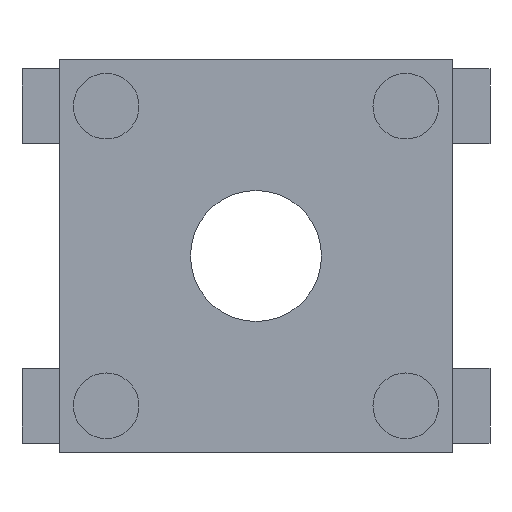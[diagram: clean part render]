
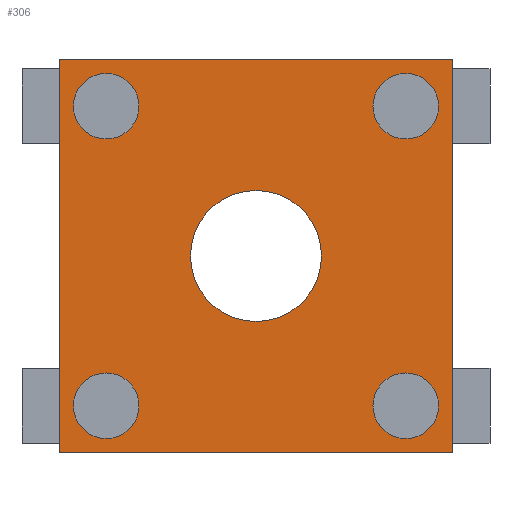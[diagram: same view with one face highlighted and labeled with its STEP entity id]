
A CAD part, front view. The second image highlights one B-rep face of the part: STEP entity #306.
In plain terms, the highlighted planar face has unit normal (0, -1, 0).
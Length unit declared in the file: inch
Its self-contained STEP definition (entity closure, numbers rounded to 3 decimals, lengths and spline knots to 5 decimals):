
#9 = ORIENTED_EDGE ( 'NONE', *, *, #946, .F. ) ;
#17 = AXIS2_PLACEMENT_3D ( 'NONE', #689, #920, #23 ) ;
#22 = CARTESIAN_POINT ( 'NONE',  ( -1259.84252, -196.85039, 984.25197 ) ) ;
#23 = DIRECTION ( 'NONE',  ( 0., 0., -1. ) ) ;
#29 = DIRECTION ( 'NONE',  ( 0., 0., -1. ) ) ;
#31 = AXIS2_PLACEMENT_3D ( 'NONE', #768, #318, #323 ) ;
#33 = AXIS2_PLACEMENT_3D ( 'NONE', #212, #828, #888 ) ;
#37 = CARTESIAN_POINT ( 'NONE',  ( -1653.54331, -196.85039, -1653.54331 ) ) ;
#40 = EDGE_LOOP ( 'NONE', ( #923, #213 ) ) ;
#46 = DIRECTION ( 'NONE',  ( 0., 1., 0. ) ) ;
#49 = CARTESIAN_POINT ( 'NONE',  ( 1653.54331, -196.85039, -1653.54331 ) ) ;
#55 = ORIENTED_EDGE ( 'NONE', *, *, #563, .T. ) ;
#58 = CARTESIAN_POINT ( 'NONE',  ( -1259.84252, -196.85039, -1259.84252 ) ) ;
#61 = EDGE_LOOP ( 'NONE', ( #769, #606, #171, #1045 ) ) ;
#78 = VERTEX_POINT ( 'NONE', #22 ) ;
#79 = CARTESIAN_POINT ( 'NONE',  ( 1259.84252, -196.85039, -984.25197 ) ) ;
#80 = DIRECTION ( 'NONE',  ( 0., 1., 0. ) ) ;
#88 = FACE_OUTER_BOUND ( 'NONE', #61, .T. ) ;
#98 = CARTESIAN_POINT ( 'NONE',  ( 1259.84252, -196.85039, 984.25197 ) ) ;
#111 = DIRECTION ( 'NONE',  ( 0., 1., 0. ) ) ;
#121 = CIRCLE ( 'NONE', #274, 551.1811 ) ;
#137 = CARTESIAN_POINT ( 'NONE',  ( -1653.54331, -196.85039, 1653.54331 ) ) ;
#163 = FACE_BOUND ( 'NONE', #40, .T. ) ;
#171 = ORIENTED_EDGE ( 'NONE', *, *, #430, .F. ) ;
#184 = CARTESIAN_POINT ( 'NONE',  ( -1653.54331, -196.85039, 1653.54331 ) ) ;
#188 = CIRCLE ( 'NONE', #950, 275.59055 ) ;
#209 = LINE ( 'NONE', #284, #240 ) ;
#212 = CARTESIAN_POINT ( 'NONE',  ( -1259.84252, -196.85039, 1259.84252 ) ) ;
#213 = ORIENTED_EDGE ( 'NONE', *, *, #771, .T. ) ;
#214 = CARTESIAN_POINT ( 'NONE',  ( 1259.84252, -196.85039, -1535.43307 ) ) ;
#234 = EDGE_CURVE ( 'NONE', #374, #454, #646, .T. ) ;
#236 = CARTESIAN_POINT ( 'NONE',  ( 1259.84252, -196.85039, 1535.43307 ) ) ;
#237 = VERTEX_POINT ( 'NONE', #214 ) ;
#240 = VECTOR ( 'NONE', #734, 39.37008 ) ;
#264 = DIRECTION ( 'NONE',  ( 0., 0., -1. ) ) ;
#274 = AXIS2_PLACEMENT_3D ( 'NONE', #409, #80, #683 ) ;
#280 = LINE ( 'NONE', #787, #818 ) ;
#284 = CARTESIAN_POINT ( 'NONE',  ( -1653.54331, -196.85039, 1653.54331 ) ) ;
#285 = ORIENTED_EDGE ( 'NONE', *, *, #234, .T. ) ;
#286 = CARTESIAN_POINT ( 'NONE',  ( -1259.84252, -196.85039, -1535.43307 ) ) ;
#292 = CARTESIAN_POINT ( 'NONE',  ( 1259.84252, -196.85039, -1259.84252 ) ) ;
#293 = AXIS2_PLACEMENT_3D ( 'NONE', #790, #46, #296 ) ;
#296 = DIRECTION ( 'NONE',  ( 0., 0., -1. ) ) ;
#297 = DIRECTION ( 'NONE',  ( 0., -1., 0. ) ) ;
#298 = VERTEX_POINT ( 'NONE', #759 ) ;
#303 = DIRECTION ( 'NONE',  ( 0., 1., 0. ) ) ;
#306 = ADVANCED_FACE ( 'NONE', ( #422, #335, #507, #847, #163, #88 ), #844, .T. ) ;
#311 = LINE ( 'NONE', #137, #551 ) ;
#318 = DIRECTION ( 'NONE',  ( 0., -1., 0. ) ) ;
#323 = DIRECTION ( 'NONE',  ( 0., 0., -1. ) ) ;
#335 = FACE_BOUND ( 'NONE', #467, .T. ) ;
#336 = VERTEX_POINT ( 'NONE', #921 ) ;
#343 = AXIS2_PLACEMENT_3D ( 'NONE', #58, #1063, #982 ) ;
#345 = CARTESIAN_POINT ( 'NONE',  ( -1653.54331, -196.85039, -1653.54331 ) ) ;
#374 = VERTEX_POINT ( 'NONE', #236 ) ;
#381 = DIRECTION ( 'NONE',  ( 0., -1., 0. ) ) ;
#383 = CIRCLE ( 'NONE', #885, 551.1811 ) ;
#384 = CIRCLE ( 'NONE', #971, 275.59055 ) ;
#387 = CARTESIAN_POINT ( 'NONE',  ( -1259.84252, -196.85039, 1259.84252 ) ) ;
#390 = EDGE_LOOP ( 'NONE', ( #285, #615 ) ) ;
#409 = CARTESIAN_POINT ( 'NONE',  ( 0., -196.85039, 0. ) ) ;
#415 = VERTEX_POINT ( 'NONE', #286 ) ;
#422 = FACE_BOUND ( 'NONE', #459, .T. ) ;
#430 = EDGE_CURVE ( 'NONE', #298, #658, #280, .T. ) ;
#433 = VERTEX_POINT ( 'NONE', #543 ) ;
#436 = VERTEX_POINT ( 'NONE', #184 ) ;
#446 = LINE ( 'NONE', #37, #528 ) ;
#454 = VERTEX_POINT ( 'NONE', #98 ) ;
#459 = EDGE_LOOP ( 'NONE', ( #993, #610 ) ) ;
#464 = ORIENTED_EDGE ( 'NONE', *, *, #987, .T. ) ;
#467 = EDGE_LOOP ( 'NONE', ( #9, #536 ) ) ;
#494 = VERTEX_POINT ( 'NONE', #345 ) ;
#507 = FACE_BOUND ( 'NONE', #535, .T. ) ;
#512 = CIRCLE ( 'NONE', #33, 275.59055 ) ;
#528 = VECTOR ( 'NONE', #878, 39.37008 ) ;
#535 = EDGE_LOOP ( 'NONE', ( #464, #55 ) ) ;
#536 = ORIENTED_EDGE ( 'NONE', *, *, #642, .F. ) ;
#543 = CARTESIAN_POINT ( 'NONE',  ( 0., -196.85039, 551.1811 ) ) ;
#551 = VECTOR ( 'NONE', #744, 39.37008 ) ;
#563 = EDGE_CURVE ( 'NONE', #78, #336, #512, .T. ) ;
#572 = VERTEX_POINT ( 'NONE', #990 ) ;
#574 = EDGE_CURVE ( 'NONE', #436, #298, #311, .T. ) ;
#588 = CIRCLE ( 'NONE', #803, 275.59055 ) ;
#606 = ORIENTED_EDGE ( 'NONE', *, *, #852, .F. ) ;
#610 = ORIENTED_EDGE ( 'NONE', *, *, #682, .F. ) ;
#615 = ORIENTED_EDGE ( 'NONE', *, *, #755, .T. ) ;
#642 = EDGE_CURVE ( 'NONE', #237, #1052, #647, .T. ) ;
#646 = CIRCLE ( 'NONE', #293, 275.59055 ) ;
#647 = CIRCLE ( 'NONE', #1070, 275.59055 ) ;
#648 = DIRECTION ( 'NONE',  ( 0., -1., 0. ) ) ;
#657 = DIRECTION ( 'NONE',  ( 0., 0., 1. ) ) ;
#658 = VERTEX_POINT ( 'NONE', #49 ) ;
#661 = EDGE_CURVE ( 'NONE', #572, #415, #188, .T. ) ;
#675 = EDGE_CURVE ( 'NONE', #433, #823, #383, .T. ) ;
#676 = CARTESIAN_POINT ( 'NONE',  ( 0., -196.85039, -551.1811 ) ) ;
#682 = EDGE_CURVE ( 'NONE', #415, #572, #833, .T. ) ;
#683 = DIRECTION ( 'NONE',  ( 0., 0., 1. ) ) ;
#689 = CARTESIAN_POINT ( 'NONE',  ( 1259.84252, -196.85039, 1259.84252 ) ) ;
#726 = CARTESIAN_POINT ( 'NONE',  ( 1259.84252, -196.85039, -1259.84252 ) ) ;
#734 = DIRECTION ( 'NONE',  ( 0., 0., 1. ) ) ;
#740 = CARTESIAN_POINT ( 'NONE',  ( -1259.84252, -196.85039, -1259.84252 ) ) ;
#744 = DIRECTION ( 'NONE',  ( 1., 0., 0. ) ) ;
#755 = EDGE_CURVE ( 'NONE', #454, #374, #765, .T. ) ;
#759 = CARTESIAN_POINT ( 'NONE',  ( 1653.54331, -196.85039, 1653.54331 ) ) ;
#765 = CIRCLE ( 'NONE', #17, 275.59055 ) ;
#768 = CARTESIAN_POINT ( 'NONE',  ( 0., -196.85039, 0. ) ) ;
#769 = ORIENTED_EDGE ( 'NONE', *, *, #839, .F. ) ;
#771 = EDGE_CURVE ( 'NONE', #823, #433, #121, .T. ) ;
#787 = CARTESIAN_POINT ( 'NONE',  ( 1653.54331, -196.85039, 1653.54331 ) ) ;
#790 = CARTESIAN_POINT ( 'NONE',  ( 1259.84252, -196.85039, 1259.84252 ) ) ;
#803 = AXIS2_PLACEMENT_3D ( 'NONE', #387, #111, #29 ) ;
#812 = DIRECTION ( 'NONE',  ( 0., 0., -1. ) ) ;
#818 = VECTOR ( 'NONE', #264, 39.37008 ) ;
#823 = VERTEX_POINT ( 'NONE', #676 ) ;
#828 = DIRECTION ( 'NONE',  ( 0., 1., 0. ) ) ;
#833 = CIRCLE ( 'NONE', #343, 275.59055 ) ;
#839 = EDGE_CURVE ( 'NONE', #494, #436, #209, .T. ) ;
#844 = PLANE ( 'NONE',  #31 ) ;
#847 = FACE_BOUND ( 'NONE', #390, .T. ) ;
#852 = EDGE_CURVE ( 'NONE', #658, #494, #446, .T. ) ;
#878 = DIRECTION ( 'NONE',  ( -1., 0., 0. ) ) ;
#885 = AXIS2_PLACEMENT_3D ( 'NONE', #977, #303, #657 ) ;
#888 = DIRECTION ( 'NONE',  ( 0., 0., -1. ) ) ;
#920 = DIRECTION ( 'NONE',  ( 0., 1., 0. ) ) ;
#921 = CARTESIAN_POINT ( 'NONE',  ( -1259.84252, -196.85039, 1535.43307 ) ) ;
#923 = ORIENTED_EDGE ( 'NONE', *, *, #675, .T. ) ;
#946 = EDGE_CURVE ( 'NONE', #1052, #237, #384, .T. ) ;
#950 = AXIS2_PLACEMENT_3D ( 'NONE', #740, #381, #1058 ) ;
#971 = AXIS2_PLACEMENT_3D ( 'NONE', #726, #297, #812 ) ;
#972 = DIRECTION ( 'NONE',  ( 0., 0., -1. ) ) ;
#977 = CARTESIAN_POINT ( 'NONE',  ( 0., -196.85039, 0. ) ) ;
#982 = DIRECTION ( 'NONE',  ( 0., 0., -1. ) ) ;
#987 = EDGE_CURVE ( 'NONE', #336, #78, #588, .T. ) ;
#990 = CARTESIAN_POINT ( 'NONE',  ( -1259.84252, -196.85039, -984.25197 ) ) ;
#993 = ORIENTED_EDGE ( 'NONE', *, *, #661, .F. ) ;
#1045 = ORIENTED_EDGE ( 'NONE', *, *, #574, .F. ) ;
#1052 = VERTEX_POINT ( 'NONE', #79 ) ;
#1058 = DIRECTION ( 'NONE',  ( 0., 0., -1. ) ) ;
#1063 = DIRECTION ( 'NONE',  ( 0., -1., 0. ) ) ;
#1070 = AXIS2_PLACEMENT_3D ( 'NONE', #292, #648, #972 ) ;
